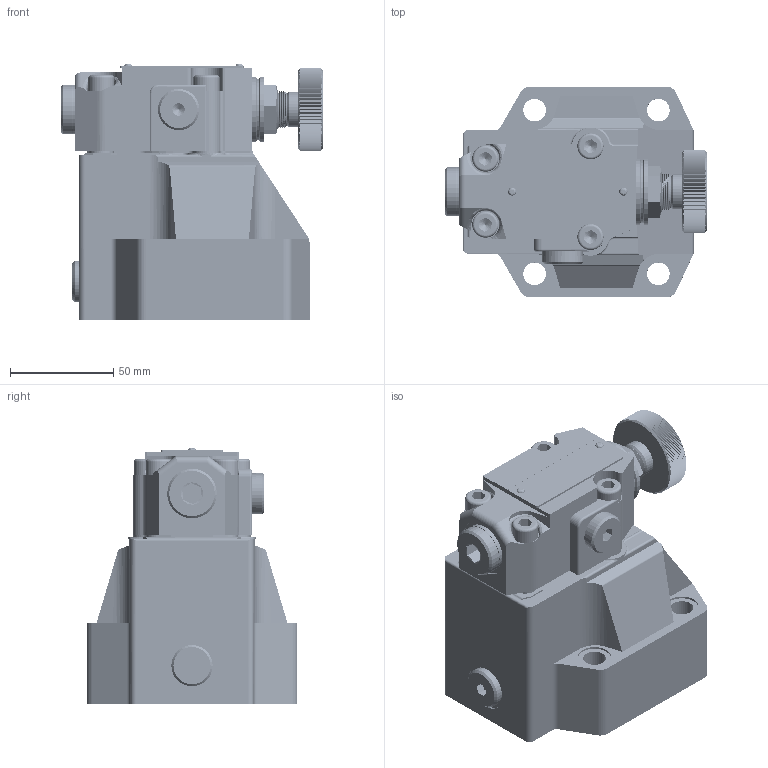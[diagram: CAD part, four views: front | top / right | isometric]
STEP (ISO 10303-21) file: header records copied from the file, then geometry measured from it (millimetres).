
FILE_DESCRIPTION(/* description */ (''),/* implementation_level */ '2;1');
FILE_NAME(/* name */ 'DR20-5XJ减压阀.prt.stp',/* time_stamp */ '2022-03-30T20:17:20+08:00',/* author */ (''),/* organization */ (''),/* preprocessor_version */ 'ST-DEVELOPER v16.7',/* originating_system */ 'SIEMENS PLM Software NX 12.0',/* authorisation */ '');
FILE_SCHEMA (('AUTOMOTIVE_DESIGN { 1 0 10303 214 3 1 1 1 }'));
Products named in the file (1): DR20-5XJ减压阀
Bounding box: 126.97 x 102 x 124 mm (x, y, z)
Volume: 821752 mm3; surface area: 124435.1 mm2
Topology: 23 solids, 25 shells, 1094 faces, 2940 edges, 1924 vertices
Faces by surface type: plane 647, cylinder 301, cone 55, bspline 52, torus 39
Full cylindrical faces by diameter (mm): 1.8 x4, 1.9 x2, 4.2 x2, 6 x4, 7 x12, 8 x93, 8.4 x4, 9 x8, 11 x4, 12.2 x4, 12.73 x4, 13 x1, 14.3 x1, 14.46 x1, 15.9 x1, 16 x5, 17 x1, 17.5 x2, 18 x1, 18.3 x1, 19 x2, 19.7 x1, 20 x3, 21.5 x2, 23 x1, 24 x2, 28 x1, 30 x2, 32 x2, 34.309 x1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
Entity records: 88319 total; most frequent: CARTESIAN_POINT 65963, ORIENTED_EDGE 4834, DIRECTION 3730, EDGE_CURVE 2417, VERTEX_POINT 1663, AXIS2_PLACEMENT_3D 1403, EDGE_LOOP 1173, B_SPLINE_CURVE_WITH_KNOTS 1020
